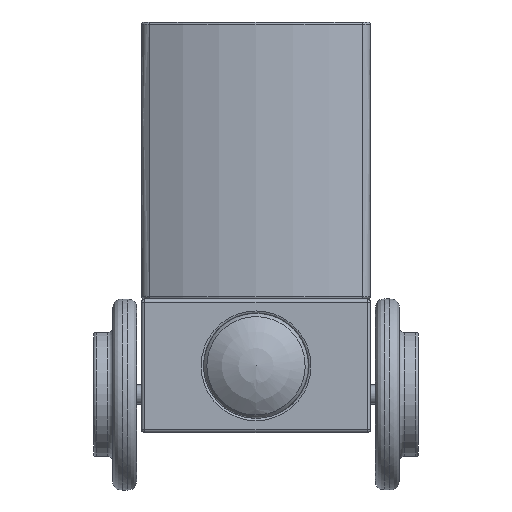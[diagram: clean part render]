
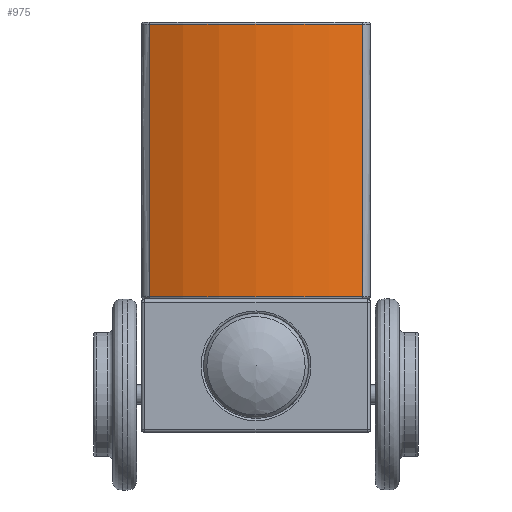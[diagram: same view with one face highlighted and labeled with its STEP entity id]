
A CAD part, left-side view. The second image highlights one B-rep face of the part: STEP entity #975.
In plain terms, the highlighted cylindrical face has radius 25 mm (diameter 50 mm), a partial arc.
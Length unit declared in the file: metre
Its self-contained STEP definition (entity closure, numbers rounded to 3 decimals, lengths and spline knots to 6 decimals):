
#975 = ADVANCED_FACE( '', ( #1924 ), #1925, .T. );
#1924 = FACE_OUTER_BOUND( '', #5205, .T. );
#1925 = CYLINDRICAL_SURFACE( '', #5206, 0.025 );
#5205 = EDGE_LOOP( '', ( #8276, #8277, #8278, #8279 ) );
#5206 = AXIS2_PLACEMENT_3D( '', #8280, #8281, #8282 );
#8276 = ORIENTED_EDGE( '', *, *, #10113, .T. );
#8277 = ORIENTED_EDGE( '', *, *, #10051, .T. );
#8278 = ORIENTED_EDGE( '', *, *, #10005, .T. );
#8279 = ORIENTED_EDGE( '', *, *, #10114, .T. );
#8280 = CARTESIAN_POINT( '', ( -0.0065, 0., 500. ) );
#8281 = DIRECTION( '', ( 0., 0., 1. ) );
#8282 = DIRECTION( '', ( -1., 0., 0. ) );
#10005 = EDGE_CURVE( '', #11144, #11237, #11265, .T. );
#10051 = EDGE_CURVE( '', #11330, #11144, #11334, .F. );
#10113 = EDGE_CURVE( '', #11416, #11330, #11417, .T. );
#10114 = EDGE_CURVE( '', #11237, #11416, #11418, .T. );
#11144 = VERTEX_POINT( '', #13846 );
#11237 = VERTEX_POINT( '', #14042 );
#11265 = B_SPLINE_CURVE_WITH_KNOTS( '', 3, ( #14110, #14111, #14112, #14113 ), .UNSPECIFIED., .F., .F., ( 4, 4 ), ( 0.008621, 0.991379 ), .UNSPECIFIED. );
#11330 = VERTEX_POINT( '', #14324 );
#11334 = CIRCLE( '', #14331, 0.025 );
#11416 = VERTEX_POINT( '', #14492 );
#11417 = B_SPLINE_CURVE_WITH_KNOTS( '', 3, ( #14493, #14494, #14495, #14496 ), .UNSPECIFIED., .F., .F., ( 4, 4 ), ( 0.008621, 0.991379 ), .UNSPECIFIED. );
#11418 = CIRCLE( '', #14497, 0.025 );
#13846 = CARTESIAN_POINT( '', ( -0.028866, 0.01117, 0.04875 ) );
#14042 = CARTESIAN_POINT( '', ( -0.028866, 0.01117, 0.02025 ) );
#14110 = CARTESIAN_POINT( '', ( -0.028866, 0.01117, 0.04875 ) );
#14111 = CARTESIAN_POINT( '', ( -0.028866, 0.01117, 0.03925 ) );
#14112 = CARTESIAN_POINT( '', ( -0.028866, 0.01117, 0.02975 ) );
#14113 = CARTESIAN_POINT( '', ( -0.028866, 0.01117, 0.02025 ) );
#14324 = CARTESIAN_POINT( '', ( -0.028866, -0.01117, 0.04875 ) );
#14331 = AXIS2_PLACEMENT_3D( '', #15784, #15785, #15786 );
#14492 = CARTESIAN_POINT( '', ( -0.028866, -0.01117, 0.02025 ) );
#14493 = CARTESIAN_POINT( '', ( -0.028866, -0.01117, 0.02025 ) );
#14494 = CARTESIAN_POINT( '', ( -0.028866, -0.01117, 0.02975 ) );
#14495 = CARTESIAN_POINT( '', ( -0.028866, -0.01117, 0.03925 ) );
#14496 = CARTESIAN_POINT( '', ( -0.028866, -0.01117, 0.04875 ) );
#14497 = AXIS2_PLACEMENT_3D( '', #15826, #15827, #15828 );
#15784 = CARTESIAN_POINT( '', ( -0.0065, 0., 0.04875 ) );
#15785 = DIRECTION( '', ( 0., 0., 1. ) );
#15786 = DIRECTION( '', ( 1., 0., 0. ) );
#15826 = CARTESIAN_POINT( '', ( -0.0065, 0., 0.02025 ) );
#15827 = DIRECTION( '', ( 0., 0., 1. ) );
#15828 = DIRECTION( '', ( 1., 0., 0. ) );
